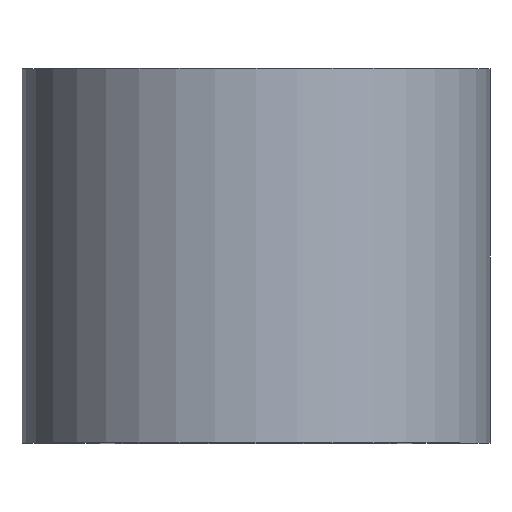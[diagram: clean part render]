
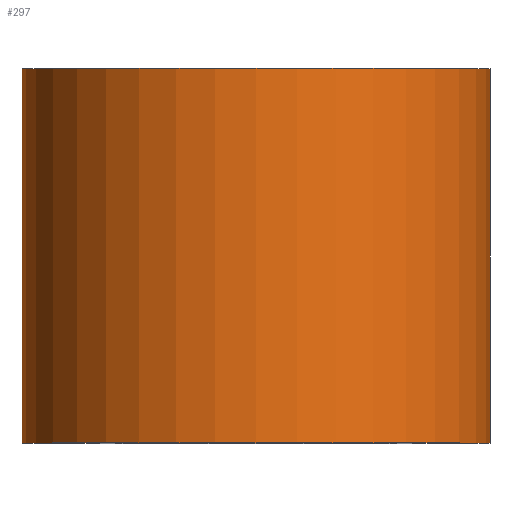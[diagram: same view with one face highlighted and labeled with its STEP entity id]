
A CAD part, top view. The second image highlights one B-rep face of the part: STEP entity #297.
In plain terms, the highlighted cylindrical face has radius 7.5 mm (diameter 15 mm), a partial arc.
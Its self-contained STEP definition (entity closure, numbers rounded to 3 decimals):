
#5 = LINE ( 'NONE', #41, #124 ) ;
#7 = DIRECTION ( 'NONE',  ( 0., 1., 0. ) ) ;
#41 = CARTESIAN_POINT ( 'NONE',  ( -7.5, 0., 0. ) ) ;
#47 = DIRECTION ( 'NONE',  ( -1., 0., 0. ) ) ;
#52 = EDGE_CURVE ( 'NONE', #198, #201, #191, .T. ) ;
#63 = ORIENTED_EDGE ( 'NONE', *, *, #92, .F. ) ;
#65 = FACE_OUTER_BOUND ( 'NONE', #269, .T. ) ;
#66 = CARTESIAN_POINT ( 'NONE',  ( -7.5, 12., 0. ) ) ;
#82 = AXIS2_PLACEMENT_3D ( 'NONE', #89, #93, #212 ) ;
#89 = CARTESIAN_POINT ( 'NONE',  ( 0., 12., 0. ) ) ;
#92 = EDGE_CURVE ( 'NONE', #208, #198, #5, .T. ) ;
#93 = DIRECTION ( 'NONE',  ( 0., 1., 0. ) ) ;
#96 = DIRECTION ( 'NONE',  ( 0., 1., 0. ) ) ;
#97 = ORIENTED_EDGE ( 'NONE', *, *, #231, .T. ) ;
#119 = AXIS2_PLACEMENT_3D ( 'NONE', #148, #125, #290 ) ;
#124 = VECTOR ( 'NONE', #211, 1000. ) ;
#125 = DIRECTION ( 'NONE',  ( 0., 1., 0. ) ) ;
#128 = ORIENTED_EDGE ( 'NONE', *, *, #277, .T. ) ;
#130 = ORIENTED_EDGE ( 'NONE', *, *, #52, .F. ) ;
#139 = AXIS2_PLACEMENT_3D ( 'NONE', #287, #96, #47 ) ;
#148 = CARTESIAN_POINT ( 'NONE',  ( 0., 0., 0. ) ) ;
#158 = CARTESIAN_POINT ( 'NONE',  ( 7.5, 12., 0. ) ) ;
#161 = VERTEX_POINT ( 'NONE', #209 ) ;
#172 = CARTESIAN_POINT ( 'NONE',  ( -7.5, 0., 0. ) ) ;
#191 = CIRCLE ( 'NONE', #82, 7.5 ) ;
#192 = CARTESIAN_POINT ( 'NONE',  ( 7.5, 0., 0. ) ) ;
#198 = VERTEX_POINT ( 'NONE', #66 ) ;
#201 = VERTEX_POINT ( 'NONE', #158 ) ;
#208 = VERTEX_POINT ( 'NONE', #172 ) ;
#209 = CARTESIAN_POINT ( 'NONE',  ( 7.5, 0., 0. ) ) ;
#211 = DIRECTION ( 'NONE',  ( 0., 1., 0. ) ) ;
#212 = DIRECTION ( 'NONE',  ( -1., 0., 0. ) ) ;
#225 = CIRCLE ( 'NONE', #139, 7.5 ) ;
#231 = EDGE_CURVE ( 'NONE', #161, #201, #238, .T. ) ;
#238 = LINE ( 'NONE', #192, #253 ) ;
#253 = VECTOR ( 'NONE', #7, 1000. ) ;
#269 = EDGE_LOOP ( 'NONE', ( #128, #97, #130, #63 ) ) ;
#277 = EDGE_CURVE ( 'NONE', #208, #161, #225, .T. ) ;
#287 = CARTESIAN_POINT ( 'NONE',  ( 0., 0., 0. ) ) ;
#290 = DIRECTION ( 'NONE',  ( -1., 0., 0. ) ) ;
#292 = CYLINDRICAL_SURFACE ( 'NONE', #119, 7.5 ) ;
#297 = ADVANCED_FACE ( 'NONE', ( #65 ), #292, .T. ) ;
